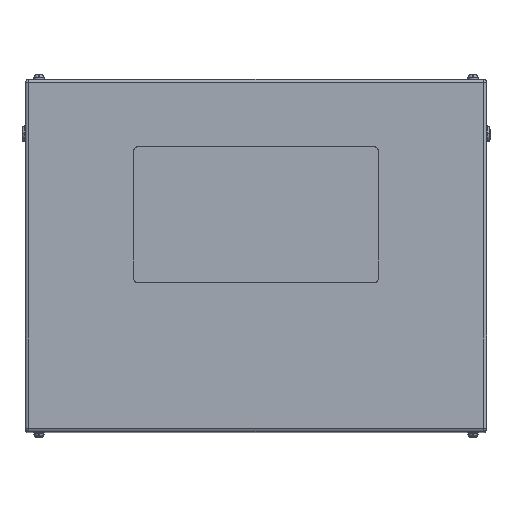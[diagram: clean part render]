
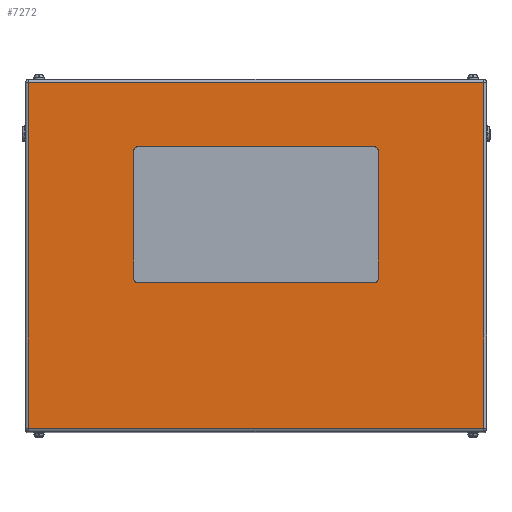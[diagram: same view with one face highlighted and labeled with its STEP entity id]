
A CAD part, top view. The second image highlights one B-rep face of the part: STEP entity #7272.
In plain terms, the highlighted planar face has unit normal (0, 0, 1).
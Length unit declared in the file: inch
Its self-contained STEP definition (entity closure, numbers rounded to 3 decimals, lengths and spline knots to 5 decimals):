
#20 = DIRECTION ( 'NONE',  ( -1., 0., 0. ) ) ;
#190 = VERTEX_POINT ( 'NONE', #4512 ) ;
#199 = DIRECTION ( 'NONE',  ( -1., 0., 0. ) ) ;
#584 = CARTESIAN_POINT ( 'NONE',  ( 16.8, -12.734, 26. ) ) ;
#611 = VERTEX_POINT ( 'NONE', #16887 ) ;
#943 = CIRCLE ( 'NONE', #11243, 0.25 ) ;
#1190 = ORIENTED_EDGE ( 'NONE', *, *, #15968, .F. ) ;
#1883 = ORIENTED_EDGE ( 'NONE', *, *, #17625, .F. ) ;
#1914 = VECTOR ( 'NONE', #5209, 39.37008 ) ;
#2258 = VECTOR ( 'NONE', #8970, 39.37008 ) ;
#2432 = LINE ( 'NONE', #13608, #2258 ) ;
#2574 = CARTESIAN_POINT ( 'NONE',  ( 9., -1.75, 26. ) ) ;
#2834 = ORIENTED_EDGE ( 'NONE', *, *, #17539, .F. ) ;
#2842 = FACE_OUTER_BOUND ( 'NONE', #6479, .T. ) ;
#2958 = DIRECTION ( 'NONE',  ( 1., 0., 0. ) ) ;
#3055 = ORIENTED_EDGE ( 'NONE', *, *, #14984, .T. ) ;
#3247 = VERTEX_POINT ( 'NONE', #17707 ) ;
#3481 = VERTEX_POINT ( 'NONE', #9526 ) ;
#3485 = CARTESIAN_POINT ( 'NONE',  ( 16.8, 13., 26. ) ) ;
#3531 = DIRECTION ( 'NONE',  ( -1., 0., 0. ) ) ;
#4168 = ORIENTED_EDGE ( 'NONE', *, *, #17763, .F. ) ;
#4512 = CARTESIAN_POINT ( 'NONE',  ( 16.8, -12.734, 26. ) ) ;
#4652 = DIRECTION ( 'NONE',  ( 1., 0., 0. ) ) ;
#4774 = LINE ( 'NONE', #16535, #12856 ) ;
#4823 = ORIENTED_EDGE ( 'NONE', *, *, #7254, .T. ) ;
#4992 = CIRCLE ( 'NONE', #8418, 0.25 ) ;
#5077 = CARTESIAN_POINT ( 'NONE',  ( -9., -1.75, 26. ) ) ;
#5209 = DIRECTION ( 'NONE',  ( 0., 1., 0. ) ) ;
#6009 = AXIS2_PLACEMENT_3D ( 'NONE', #12795, #19366, #4652 ) ;
#6479 = EDGE_LOOP ( 'NONE', ( #4823, #20808, #18535, #3055 ) ) ;
#6500 = CARTESIAN_POINT ( 'NONE',  ( 16.8, 12.734, 26. ) ) ;
#6878 = DIRECTION ( 'NONE',  ( 1., 0., 0. ) ) ;
#6992 = DIRECTION ( 'NONE',  ( 0., -1., 0. ) ) ;
#7203 = VERTEX_POINT ( 'NONE', #20576 ) ;
#7254 = EDGE_CURVE ( 'NONE', #7203, #16464, #14116, .T. ) ;
#7272 = ADVANCED_FACE ( 'NONE', ( #17551, #2842 ), #10766, .F. ) ;
#7320 = DIRECTION ( 'NONE',  ( 1., 0., 0. ) ) ;
#7534 = CARTESIAN_POINT ( 'NONE',  ( 8.75, 8., 26. ) ) ;
#7716 = AXIS2_PLACEMENT_3D ( 'NONE', #10075, #18478, #10287 ) ;
#8108 = ORIENTED_EDGE ( 'NONE', *, *, #9545, .F. ) ;
#8213 = DIRECTION ( 'NONE',  ( 0., 0., -1. ) ) ;
#8329 = CARTESIAN_POINT ( 'NONE',  ( 17., 13., 26. ) ) ;
#8418 = AXIS2_PLACEMENT_3D ( 'NONE', #13513, #16924, #3531 ) ;
#8970 = DIRECTION ( 'NONE',  ( -1., 0., 0. ) ) ;
#9377 = VERTEX_POINT ( 'NONE', #14410 ) ;
#9526 = CARTESIAN_POINT ( 'NONE',  ( -8.75, 8., 26. ) ) ;
#9545 = EDGE_CURVE ( 'NONE', #14600, #3247, #943, .T. ) ;
#10075 = CARTESIAN_POINT ( 'NONE',  ( 8.75, -1.75, 26. ) ) ;
#10232 = AXIS2_PLACEMENT_3D ( 'NONE', #8329, #8213, #20 ) ;
#10287 = DIRECTION ( 'NONE',  ( 1., 0., 0. ) ) ;
#10391 = DIRECTION ( 'NONE',  ( 0., 0., 1. ) ) ;
#10766 = PLANE ( 'NONE',  #10232 ) ;
#10996 = VECTOR ( 'NONE', #2958, 39.37008 ) ;
#11195 = VECTOR ( 'NONE', #6992, 39.37008 ) ;
#11243 = AXIS2_PLACEMENT_3D ( 'NONE', #13650, #10391, #7320 ) ;
#11460 = CARTESIAN_POINT ( 'NONE',  ( 9., 7.75, 26. ) ) ;
#11467 = CIRCLE ( 'NONE', #6009, 0.25 ) ;
#11510 = LINE ( 'NONE', #3485, #1914 ) ;
#11630 = VECTOR ( 'NONE', #18957, 39.37008 ) ;
#11707 = EDGE_CURVE ( 'NONE', #190, #13787, #11510, .T. ) ;
#11767 = LINE ( 'NONE', #584, #21139 ) ;
#12492 = EDGE_CURVE ( 'NONE', #16464, #190, #11767, .T. ) ;
#12731 = CARTESIAN_POINT ( 'NONE',  ( -8.75, -2., 26. ) ) ;
#12795 = CARTESIAN_POINT ( 'NONE',  ( -8.75, 7.75, 26. ) ) ;
#12808 = ORIENTED_EDGE ( 'NONE', *, *, #17821, .F. ) ;
#12856 = VECTOR ( 'NONE', #199, 39.37008 ) ;
#13041 = CARTESIAN_POINT ( 'NONE',  ( 9., 7.75, 26. ) ) ;
#13513 = CARTESIAN_POINT ( 'NONE',  ( 8.75, 7.75, 26. ) ) ;
#13608 = CARTESIAN_POINT ( 'NONE',  ( 17., 12.734, 26. ) ) ;
#13650 = CARTESIAN_POINT ( 'NONE',  ( -8.75, -1.75, 26. ) ) ;
#13787 = VERTEX_POINT ( 'NONE', #6500 ) ;
#14116 = LINE ( 'NONE', #20690, #11630 ) ;
#14410 = CARTESIAN_POINT ( 'NONE',  ( 8.75, -2., 26. ) ) ;
#14504 = EDGE_CURVE ( 'NONE', #611, #14600, #16627, .T. ) ;
#14600 = VERTEX_POINT ( 'NONE', #5077 ) ;
#14943 = EDGE_LOOP ( 'NONE', ( #1190, #8108, #17621, #15420, #2834, #12808, #4168, #1883 ) ) ;
#14984 = EDGE_CURVE ( 'NONE', #13787, #7203, #2432, .T. ) ;
#15420 = ORIENTED_EDGE ( 'NONE', *, *, #17561, .F. ) ;
#15968 = EDGE_CURVE ( 'NONE', #3247, #9377, #17558, .T. ) ;
#16464 = VERTEX_POINT ( 'NONE', #17809 ) ;
#16535 = CARTESIAN_POINT ( 'NONE',  ( -8.75, 8., 26. ) ) ;
#16627 = LINE ( 'NONE', #18048, #11195 ) ;
#16887 = CARTESIAN_POINT ( 'NONE',  ( -9., 7.75, 26. ) ) ;
#16924 = DIRECTION ( 'NONE',  ( 0., 0., 1. ) ) ;
#16950 = CIRCLE ( 'NONE', #7716, 0.25 ) ;
#17313 = VECTOR ( 'NONE', #18021, 39.37008 ) ;
#17539 = EDGE_CURVE ( 'NONE', #20714, #3481, #4774, .T. ) ;
#17551 = FACE_BOUND ( 'NONE', #14943, .T. ) ;
#17558 = LINE ( 'NONE', #12731, #10996 ) ;
#17561 = EDGE_CURVE ( 'NONE', #3481, #611, #11467, .T. ) ;
#17621 = ORIENTED_EDGE ( 'NONE', *, *, #14504, .F. ) ;
#17625 = EDGE_CURVE ( 'NONE', #9377, #20779, #16950, .T. ) ;
#17707 = CARTESIAN_POINT ( 'NONE',  ( -8.75, -2., 26. ) ) ;
#17763 = EDGE_CURVE ( 'NONE', #20779, #20492, #17823, .T. ) ;
#17809 = CARTESIAN_POINT ( 'NONE',  ( -16.8, -12.734, 26. ) ) ;
#17821 = EDGE_CURVE ( 'NONE', #20492, #20714, #4992, .T. ) ;
#17823 = LINE ( 'NONE', #11460, #17313 ) ;
#18021 = DIRECTION ( 'NONE',  ( 0., 1., 0. ) ) ;
#18048 = CARTESIAN_POINT ( 'NONE',  ( -9., 7.75, 26. ) ) ;
#18478 = DIRECTION ( 'NONE',  ( 0., 0., 1. ) ) ;
#18535 = ORIENTED_EDGE ( 'NONE', *, *, #11707, .T. ) ;
#18957 = DIRECTION ( 'NONE',  ( 0., -1., 0. ) ) ;
#19366 = DIRECTION ( 'NONE',  ( 0., 0., 1. ) ) ;
#20492 = VERTEX_POINT ( 'NONE', #13041 ) ;
#20576 = CARTESIAN_POINT ( 'NONE',  ( -16.8, 12.734, 26. ) ) ;
#20690 = CARTESIAN_POINT ( 'NONE',  ( -16.8, 13., 26. ) ) ;
#20714 = VERTEX_POINT ( 'NONE', #7534 ) ;
#20779 = VERTEX_POINT ( 'NONE', #2574 ) ;
#20808 = ORIENTED_EDGE ( 'NONE', *, *, #12492, .T. ) ;
#21139 = VECTOR ( 'NONE', #6878, 39.37008 ) ;
